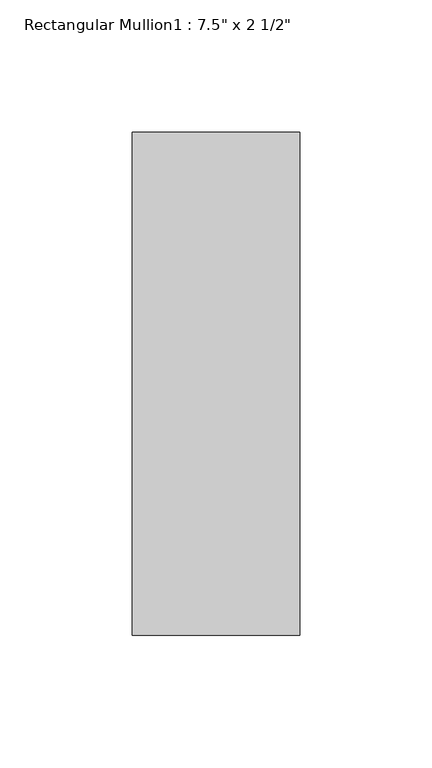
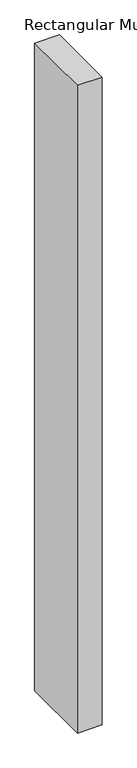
"""IFC4 building model written with IfcOpenShell, lengths in millimetres: member geometry."""

from ifc_helpers import new_model, si_unit, frame, origin, place, context, project, spatial, polyline, outline, extrude, source, transform, mapped, element, save


def member_5b31a2c5(model_context):
    return source(origin(), model_context, "Body", "SweptSolid", [
        extrude(outline(polyline([(0.0, 165.1), (0.0, -25.4), (-63.5, -25.4), (-63.5, 165.1), (0.0, 165.1)])), frame((0.0, 0.0, -1765.3000024), z_axis=(0.0, 0.0, 1.0), x_axis=(1.0, 0.0, 0.0)), (0.0, 0.0, 1.0), 1765.3000024),
    ])


if __name__ == "__main__":
    model = new_model("IFC4")
    model_context = context("Model", 3, world=origin())
    ifc_project = project(units=[si_unit("LENGTHUNIT", "METRE", prefix="MILLI")], contexts=[model_context])
    site = spatial("IfcSite", under=ifc_project)
    building = spatial("IfcBuilding", under=site)
    placement = place(None, origin())
    member_shape = member_5b31a2c5(model_context)
    element("IfcMember", 1, ObjectType="Rectangular Mullion1 : 7.5\" x 2 1/2\"", at=placement, inside=building, context=model_context, shape_type="MappedRepresentation", body=[
        mapped(member_shape, transform((0.0, 0.0, 0.0), x_axis=(1.0, 0.0, 0.0), y_axis=(0.0, 1.0, 0.0), z_axis=(0.0, 0.0, 1.0))),
    ])
    save(model, "model.ifc")
